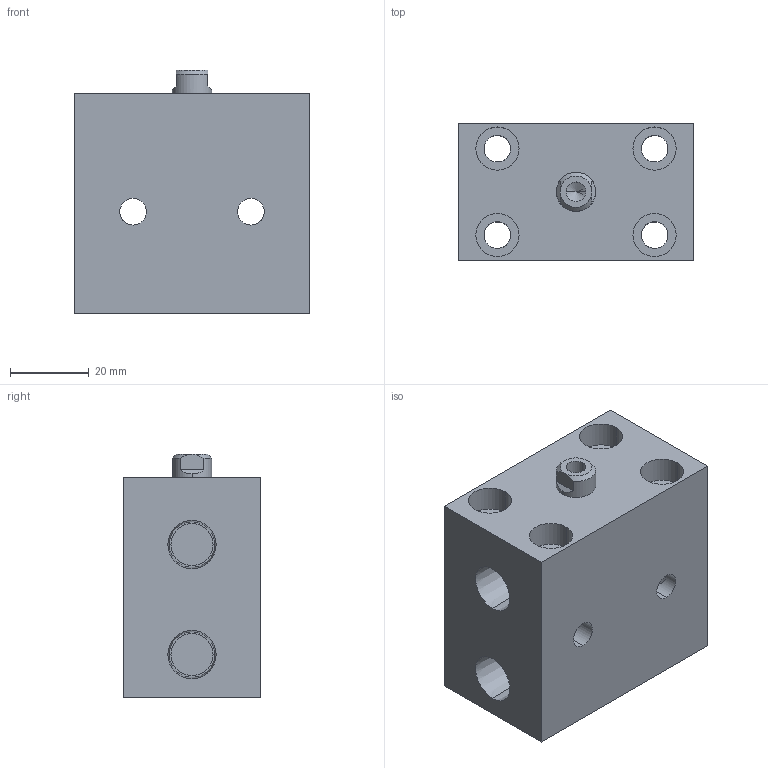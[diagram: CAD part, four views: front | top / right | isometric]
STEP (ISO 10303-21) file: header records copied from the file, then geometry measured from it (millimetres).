
FILE_DESCRIPTION (( 'STEP AP203' ), '1' );
FILE_NAME ('HBC-16-D-16N.STEP', '2019-11-29T08:51:22', ( '微软用户' ), ( '微软中国' ), 'SwSTEP 2.0', 'SolidWorks 2012', '' );
FILE_SCHEMA (( 'CONFIG_CONTROL_DESIGN' ));
Length unit declared in the file: millimetre
Products named in the file (3): HBC-16-D-16N; HBC-16-D-16N掛极; HBC-16-D-16N活塞杆
Assembly tree (2 placements, depth 2):
  HBC-16-D-16N
    HBC-16-D-16N掛极
    HBC-16-D-16N活塞杆
Bounding box: 60 x 35 x 62 mm (x, y, z)
Volume: 100542.6 mm3; surface area: 26448.5 mm2
Topology: 2 solids, 2 shells, 65 faces, 158 edges, 103 vertices
Faces by surface type: cylinder 34, plane 23, cone 8
Entity records: 2545 total; most frequent: CARTESIAN_POINT 641, DIRECTION 358, ORIENTED_EDGE 312, EDGE_CURVE 156, AXIS2_PLACEMENT_3D 148, VERTEX_POINT 103, EDGE_LOOP 93, CIRCLE 78
